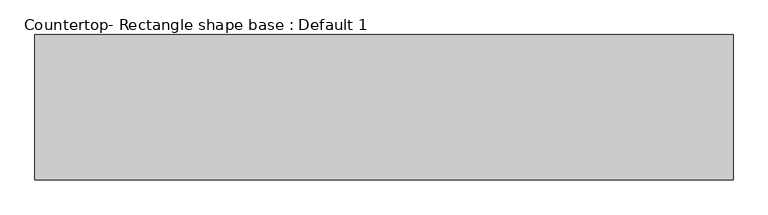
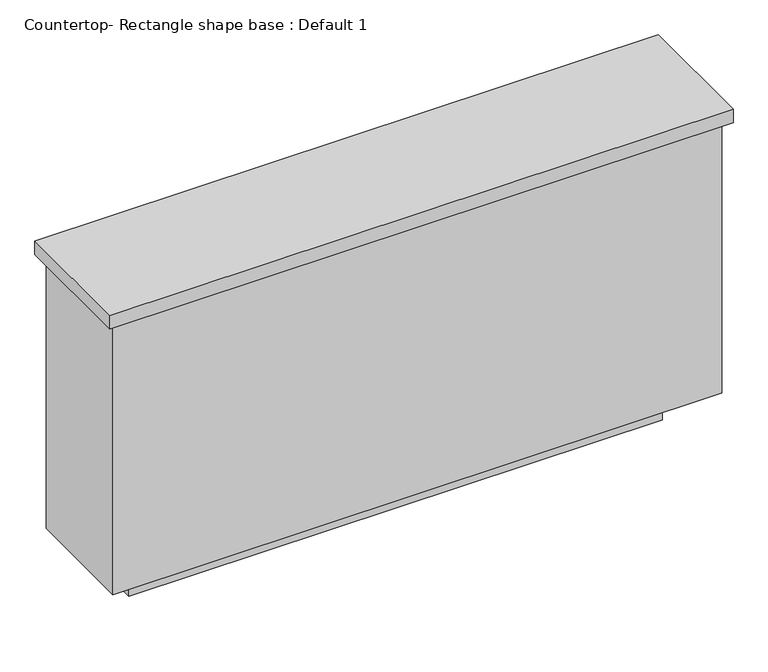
"""IFC4 building model written with IfcOpenShell, lengths in millimetres: proxy geometry, Countertop- Rectangle shape base : Default 1."""

from ifc_helpers import new_model, si_unit, frame, origin, origin_with_axes, place, context, project, spatial, polyline, outline, extrude, source, transform, mapped, element, save


def countertop_rectangle_shape_base_default_1_8f285152(model_context):
    return source(origin(), model_context, "Body", "SweptSolid", [
        extrude(outline(polyline([(-76.2, 206.375), (-76.2, 555.625), (1600.2, 555.625), (1600.2, 206.375), (-76.2, 206.375)])), frame((0.0, 0.0, 876.3), z_axis=(0.0, 0.0, 1.0), x_axis=(1.0, 0.0, 0.0)), (0.0, 0.0, 1.0), 38.1),
        extrude(outline(polyline([(1581.15, 536.575), (1581.15, 225.425), (-57.15, 225.425), (-57.15, 536.575), (1581.15, 536.575)])), frame((0.0, 0.0, 101.6), z_axis=(0.0, 0.0, 1.0), x_axis=(1.0, 0.0, 0.0)), (0.0, 0.0, 1.0), 774.7),
        extrude(outline(polyline([(1479.55, 434.975), (1479.55, 327.025), (44.45, 327.025), (44.45, 434.975), (1479.55, 434.975)])), origin_with_axes(), (0.0, 0.0, 1.0), 101.6),
    ])


if __name__ == "__main__":
    model = new_model("IFC4")
    model_context = context("Model", 3, world=origin())
    ifc_project = project(units=[si_unit("LENGTHUNIT", "METRE", prefix="MILLI")], contexts=[model_context])
    site = spatial("IfcSite", under=ifc_project)
    building = spatial("IfcBuilding", under=site)
    placement = place(None, origin())
    countertop_rectangle_shape_base_default_1_shape = countertop_rectangle_shape_base_default_1_8f285152(model_context)
    element("IfcBuildingElementProxy", 1, Name="Countertop- Rectangle shape base : Default 1", ObjectType="Countertop- Rectangle shape base : Default 1", at=placement, inside=building, context=model_context, shape_type="MappedRepresentation", body=[
        mapped(countertop_rectangle_shape_base_default_1_shape, transform((0.0, 0.0, 0.0), x_axis=(1.0, 0.0, 0.0), y_axis=(0.0, 1.0, 0.0), z_axis=(0.0, 0.0, 1.0))),
    ])
    save(model, "model.ifc")
